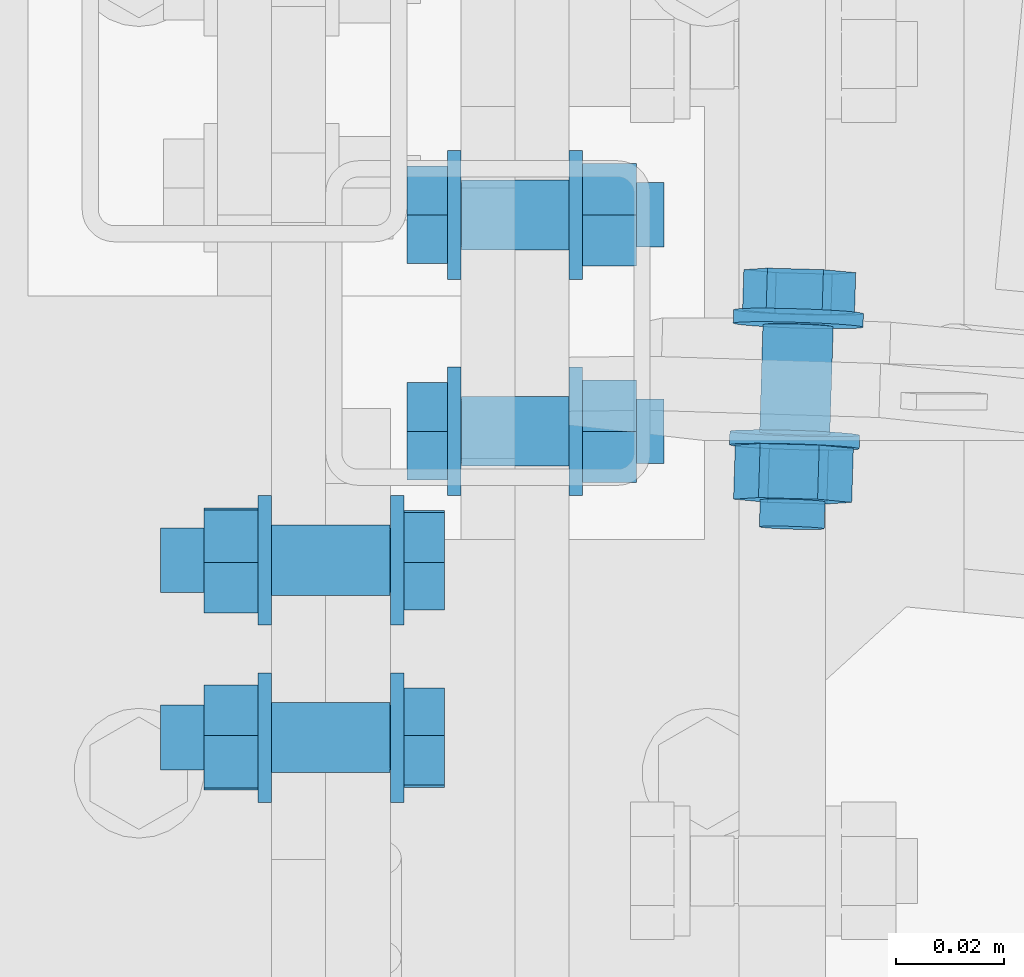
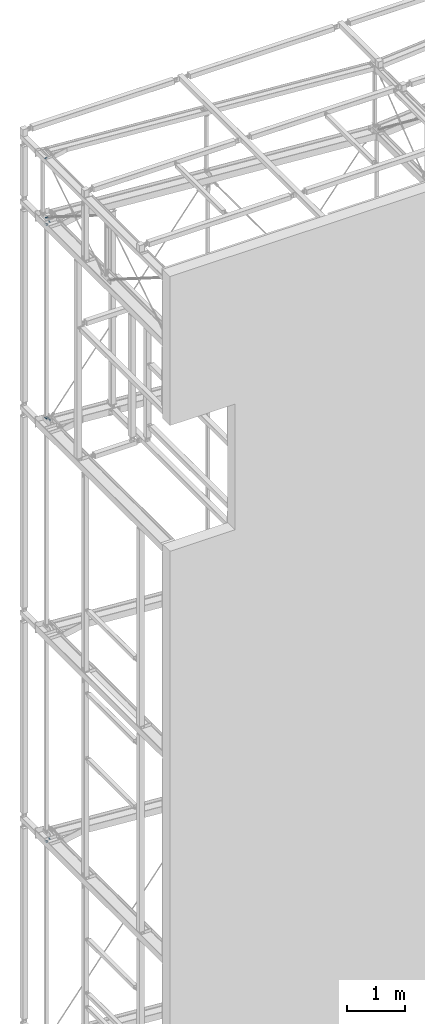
# One storey, part 248 of 271: 8 mechanical fasteners, 7 elements without a shape of their own.
"""IFC2X3 building model written with IfcOpenShell, lengths in millimetres."""

import ifcopenshell
import ifcopenshell.guid

model = None  # the IFC model being written
_history = None  # IfcOwnerHistory: only IFC2X3 demands one
_inside = {}  # id of a spatial element -> (the spatial element, [elements in it])
_under = {}  # id of a project, library or spatial element -> (it, [spatial elements below it])
_declared = {}  # id of a project -> (the project, [libraries it declares])
_typed = {}  # id of a type object -> (the type object, [elements of that type])
_made_of = {}  # id of a material, layer set ... -> (it, [elements and type objects made of it])


def new_model(schema):
    """Start an empty IFC model of exactly this schema.

    Asked for "IFC4X3", IfcOpenShell would pick the latest addendum, in which some entities
    have other attributes; the version numbers below select the first issue.
    IFC2X3 requires an IfcOwnerHistory on every rooted entity: one is made here for all.
    """
    global model, _history
    if schema == "IFC4X3":
        model = ifcopenshell.file(schema_version=(4, 3, 0, 0))
    else:
        model = ifcopenshell.file(schema=schema)
    _inside.clear()
    _under.clear()
    _declared.clear()
    _typed.clear()
    _made_of.clear()
    _history = None
    if model.schema == "IFC2X3":
        org = make("IfcOrganization", Name="unknown")
        user = make(
            "IfcPersonAndOrganization",
            ThePerson=make("IfcPerson", FamilyName="unknown"),
            TheOrganization=org,
        )
        app = make(
            "IfcApplication",
            ApplicationDeveloper=org,
            Version="unknown",
            ApplicationFullName="unknown",
            ApplicationIdentifier="unknown",
        )
        _history = make(
            "IfcOwnerHistory",
            OwningUser=user,
            OwningApplication=app,
            ChangeAction="ADDED",
            CreationDate=0,
        )
    return model


def make(cls, **values):
    """One entity of the class cls with the attributes given. An attribute that is None is left unset."""
    return model.create_entity(
        cls, **{name: value for name, value in values.items() if value is not None}
    )


def rooted(cls, **values):
    """An entity with a GlobalId (a new one), such as an element, a storey or a relation."""
    return make(cls, GlobalId=ifcopenshell.guid.new(), OwnerHistory=_history, **values)


def si_unit(unit_type, name, prefix=None):
    """IfcSIUnit, for example si_unit("LENGTHUNIT", "METRE", prefix="MILLI")."""
    return make("IfcSIUnit", UnitType=unit_type, Prefix=prefix, Name=name)


def assignment(units):
    """IfcUnitAssignment: the units of a project."""
    return None if units is None else make("IfcUnitAssignment", Units=units)


def point(xyz):
    """IfcCartesianPoint."""
    return None if xyz is None else make("IfcCartesianPoint", Coordinates=xyz)


def direction(xyz):
    """IfcDirection."""
    return None if xyz is None else make("IfcDirection", DirectionRatios=xyz)


def frame(location, z_axis=None, x_axis=None):
    """IfcAxis2Placement3D, a coordinate frame: its origin and axes. An axis left out is left unset."""
    return make(
        "IfcAxis2Placement3D",
        Location=point(location),
        Axis=direction(z_axis),
        RefDirection=direction(x_axis),
    )


def frame_2d(location, x_axis=None):
    """IfcAxis2Placement2D, a coordinate frame in the plane: its origin and x axis."""
    return make(
        "IfcAxis2Placement2D", Location=point(location), RefDirection=direction(x_axis)
    )


def origin_with_axes():
    """The frame at (0, 0, 0) with the z axis (0, 0, 1) and the x axis (1, 0, 0) written out."""
    return frame((0.0, 0.0, 0.0), z_axis=(0.0, 0.0, 1.0), x_axis=(1.0, 0.0, 0.0))


def origin_2d_with_axis():
    """The frame at (0, 0) in the plane with the x axis (1, 0) written out."""
    return frame_2d((0.0, 0.0), x_axis=(1.0, 0.0))


def place(relative_to, where):
    """IfcLocalPlacement: puts the frame where relative to a parent placement (None: the world)."""
    return make(
        "IfcLocalPlacement", PlacementRelTo=relative_to, RelativePlacement=where
    )


def context(
    kind, dimensions, precision=None, world=None, true_north=None, identifier=None
):
    """IfcGeometricRepresentationContext, for example the 3D "Model" context."""
    return make(
        "IfcGeometricRepresentationContext",
        ContextIdentifier=identifier,
        ContextType=kind,
        CoordinateSpaceDimension=dimensions,
        Precision=precision,
        WorldCoordinateSystem=world,
        TrueNorth=true_north,
    )


def subcontext(parent, identifier, kind, view, scale=None):
    """IfcGeometricRepresentationSubContext, for example "Body" below "Model"."""
    return make(
        "IfcGeometricRepresentationSubContext",
        ContextIdentifier=identifier,
        ContextType=kind,
        ParentContext=parent,
        TargetScale=scale,
        TargetView=view,
    )


def project(units=None, contexts=None):
    """IfcProject with its units and contexts."""
    return rooted(
        "IfcProject",
        Name="project",
        RepresentationContexts=contexts,
        UnitsInContext=assignment(units),
    )


def spatial(cls, under=None, at=None, **own):
    """A site, building, storey or space (cls), placed at a placement, below another one or the project."""
    s = rooted(cls, ObjectPlacement=at, **own)
    if under is not None:
        _under.setdefault(under.id(), (under, []))[1].append(s)
    return s


def polyline(points):
    """IfcPolyline through the points."""
    return make("IfcPolyline", Points=[point(p) for p in points])


def profile(cls, at=None, kind="AREA", **sizes):
    """A parametric profile (cls). Its sizes go by their IFC names, for example OverallWidth=200.0."""
    return make(cls, ProfileType=kind, Position=at, **sizes)


def circle(**sizes):
    """IfcCircleProfileDef."""
    return profile("IfcCircleProfileDef", **sizes)


def outline(outer, holes=None, kind="AREA"):
    """IfcArbitraryClosedProfileDef: a profile drawn as a closed curve; with holes, ...WithVoids."""
    if holes is None:
        return make("IfcArbitraryClosedProfileDef", ProfileType=kind, OuterCurve=outer)
    return make(
        "IfcArbitraryProfileDefWithVoids",
        ProfileType=kind,
        OuterCurve=outer,
        InnerCurves=holes,
    )


def extrude(swept, where, along, depth):
    """IfcExtrudedAreaSolid: the profile swept, set in the frame where, extruded along a direction by depth."""
    return make(
        "IfcExtrudedAreaSolid",
        SweptArea=swept,
        Position=where,
        ExtrudedDirection=direction(along),
        Depth=depth,
    )


def shape(context_of_items, identifier, shape_type, items):
    """IfcShapeRepresentation: the items that make up one representation, for example the "Body"."""
    return make(
        "IfcShapeRepresentation",
        ContextOfItems=context_of_items,
        RepresentationIdentifier=identifier,
        RepresentationType=shape_type,
        Items=items,
    )


def source(mapping_origin, context_of_items, identifier, shape_type, items):
    """IfcRepresentationMap: a shape defined once, which mapped items show again and again."""
    return make(
        "IfcRepresentationMap",
        MappingOrigin=mapping_origin,
        MappedRepresentation=shape(context_of_items, identifier, shape_type, items),
    )


def transform(
    local_origin,
    x_axis=None,
    y_axis=None,
    z_axis=None,
    scale=None,
    scale2=None,
    scale3=None,
    uniform=True,
):
    """IfcCartesianTransformationOperator3D, or its non-uniform kind. x_axis, y_axis, z_axis: its Axis1, 2, 3."""
    if uniform:
        return make(
            "IfcCartesianTransformationOperator3D",
            Axis1=direction(x_axis),
            Axis2=direction(y_axis),
            LocalOrigin=point(local_origin),
            Scale=scale,
            Axis3=direction(z_axis),
        )
    return make(
        "IfcCartesianTransformationOperator3DnonUniform",
        Axis1=direction(x_axis),
        Axis2=direction(y_axis),
        LocalOrigin=point(local_origin),
        Scale=scale,
        Axis3=direction(z_axis),
        Scale2=scale2,
        Scale3=scale3,
    )


def mapped(mapping_source, mapping_target):
    """IfcMappedItem: shows the shape of a source again, moved by a transform."""
    return make(
        "IfcMappedItem", MappingSource=mapping_source, MappingTarget=mapping_target
    )


def material(Name=None, Category=None):
    """IfcMaterial."""
    return make("IfcMaterial", Name=Name, Category=Category)


def made_of(thing, what):
    """Note that an element or type object is made of a material, layer set ...; save() writes the relation."""
    if what is not None:
        _made_of.setdefault(what.id(), (what, []))[1].append(thing)
    return thing


def type_object(cls, material=None, **own):
    """A type object (cls), such as IfcWallType, which elements share."""
    return made_of(rooted(cls, **own), material)


def element(
    cls,
    number,
    at=None,
    inside=None,
    cuts=None,
    type_object=None,
    material=None,
    context=None,
    identifier="Body",
    shape_type=None,
    held_by="IfcProductDefinitionShape",
    body=None,
    shapes=None,
    **own,
):
    """One element of the class cls, such as IfcWall. Its Tag is "e" and its number.

    at: its placement. inside: the storey or other place that contains it. cuts: it is an
    opening in that element (IfcRelVoidsElement). A single representation is given by context,
    identifier, shape_type and body (its items); several are given by shapes. held_by: the class
    of the entity that holds the representations. save() writes the other relations.
    """
    e = rooted(cls, Tag="e%d" % number, ObjectPlacement=at, **own)
    if body is not None:
        shapes = [shape(context, identifier, shape_type, body)]
    if shapes is not None:
        e.Representation = make(held_by, Representations=shapes)
    if inside is not None:
        _inside.setdefault(inside.id(), (inside, []))[1].append(e)
    if cuts is not None:
        rooted(
            "IfcRelVoidsElement", RelatingBuildingElement=cuts, RelatedOpeningElement=e
        )
    if type_object is not None:
        _typed.setdefault(type_object.id(), (type_object, []))[1].append(e)
    return made_of(e, material)


def aggregate(whole, parts):
    """IfcRelAggregates: a whole, such as a stair, and the parts it consists of."""
    return rooted("IfcRelAggregates", RelatingObject=whole, RelatedObjects=parts)


def save(model, path):
    """Write the relations noted so far, then the file.

    IfcRelAggregates (storeys below a building ...), IfcRelContainedInSpatialStructure (elements
    in a storey), IfcRelDefinesByType, IfcRelAssociatesMaterial and IfcRelDeclares: one each for
    every whole, place, type object, material and project.
    """
    for whole, parts in _under.values():
        aggregate(whole, parts)
    for where, things in _inside.values():
        rooted(
            "IfcRelContainedInSpatialStructure",
            RelatedElements=things,
            RelatingStructure=where,
        )
    for kind, things in _typed.values():
        rooted("IfcRelDefinesByType", RelatedObjects=things, RelatingType=kind)
    for what, things in _made_of.values():
        rooted("IfcRelAssociatesMaterial", RelatedObjects=things, RelatingMaterial=what)
    for by, libraries in _declared.values():
        rooted("IfcRelDeclares", RelatingContext=by, RelatedDefinitions=libraries)
    model.write(path)


model = new_model("IFC2X3")

# Units and contexts
model_context = context("Model", 3, precision=1e-05, world=origin_with_axes())
body_context = subcontext(model_context, "Body", "Model", "MODEL_VIEW")
ifc_project = project(units=[si_unit("LENGTHUNIT", "METRE", prefix="MILLI"), si_unit("AREAUNIT", "SQUARE_METRE"), si_unit("VOLUMEUNIT", "CUBIC_METRE"), si_unit("MASSUNIT", "GRAM", prefix="KILO"), si_unit("TIMEUNIT", "SECOND"), si_unit("PLANEANGLEUNIT", "RADIAN"), si_unit("SOLIDANGLEUNIT", "STERADIAN"), si_unit("THERMODYNAMICTEMPERATUREUNIT", "DEGREE_CELSIUS"), si_unit("LUMINOUSINTENSITYUNIT", "LUMEN")], contexts=[model_context])

# Site, building, storey
site_placement = place(None, origin_with_axes())
site = spatial("IfcSite", under=ifc_project, at=site_placement, Name="Undefined", CompositionType="ELEMENT")
building_placement = place(site_placement, origin_with_axes())
building = spatial("IfcBuilding", under=site, at=building_placement, Name="Undefined", CompositionType="ELEMENT")
storey_placement = place(building_placement, origin_with_axes())
storey = spatial("IfcBuildingStorey", under=building, at=storey_placement, Name="Undefined", CompositionType="ELEMENT", Elevation=0.0)

# Assembly, mechanical fastener
assembly_1_placement = place(storey_placement, origin_with_axes())
assembly_1 = element("IfcElementAssembly", 1, at=assembly_1_placement, inside=storey, AssemblyPlace="NOTDEFINED", PredefinedType="RIGID_FRAME")
ifc_material = material(Name="Undefined")
mechanical_fastener_type = type_object("IfcMechanicalFastenerType", Name="Bolt assembly")
shared_shape_1 = source(origin_with_axes(), body_context, "Body", "SweptSolid", [
    extrude(circle(Radius=6.5, at=origin_2d_with_axis()), frame((0.0, -5.1, 0.0), z_axis=(0.0, 1.0, 0.0), x_axis=(1.0, 0.0, 0.0)), (0.0, 0.0, 1.0), 10.1),
    extrude(circle(Radius=6.5, at=origin_2d_with_axis()), frame((0.0, -16.9, 0.0), z_axis=(0.0, 1.0, 0.0), x_axis=(1.0, 0.0, 0.0)), (0.0, 0.0, 1.0), 12.0),
    extrude(outline(polyline([(10.39230484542, 0.0), (5.19615242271, 9.00000000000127), (-5.19615242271, 9.00000000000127), (-10.39230484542, 0.0), (-5.19615242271, -9.00000000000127), (5.19615242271, -9.00000000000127), (10.39230484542, 0.0)])), frame((0.0, -27.0, 0.0), z_axis=(0.0, 1.0, 0.0), x_axis=(1.0, 0.0, 0.0)), (0.0, 0.0, 1.0), 7.5),
    extrude(circle(Radius=6.0, at=origin_2d_with_axis()), frame((0.0, -19.5, 0.0), z_axis=(0.0, 1.0, 0.0), x_axis=(1.0, 0.0, 0.0)), (0.0, 0.0, 1.0), 45.0),
    extrude(circle(Radius=12.0, at=origin_2d_with_axis()), frame((0.0, -19.5, 0.0), z_axis=(0.0, 1.0, 0.0), x_axis=(1.0, 0.0, 0.0)), (0.0, 0.0, 1.0), 2.5),
    extrude(circle(Radius=12.0, at=origin_2d_with_axis()), frame((0.0, 5.00000000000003, 0.0), z_axis=(0.0, 1.0, 0.0), x_axis=(1.0, 0.0, 0.0)), (0.0, 0.0, 1.0), 2.5),
    extrude(outline(polyline([(10.96965511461, 0.0), (5.484827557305, 9.50000000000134), (-5.484827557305, 9.50000000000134), (-10.96965511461, 0.0), (-5.484827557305, -9.50000000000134), (5.484827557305, -9.50000000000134), (10.96965511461, 0.0)])), frame((0.0, 7.50000000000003, 0.0), z_axis=(0.0, 1.0, 0.0), x_axis=(1.0, 0.0, 0.0)), (0.0, 0.0, 1.0), 10.0),
])
mechanical_fastener_1_placement = place(assembly_1_placement, frame((87.999999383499, 4248.3479574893, 19948.358337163), z_axis=(0.0, 0.533166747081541, -0.846010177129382), x_axis=(0.0, -0.846010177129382, -0.533166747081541)))
mechanical_fastener_1 = element("IfcMechanicalFastener", 2, at=mechanical_fastener_1_placement, type_object=mechanical_fastener_type, material=ifc_material, Name="Bolt assembly", NominalDiameter=12.0, NominalLength=45.0, context=body_context, shape_type="MappedRepresentation", body=[
    mapped(shared_shape_1, transform((0.0, 0.0, 0.0))),
])
aggregate(assembly_1, [mechanical_fastener_1])

assembly_2_placement = place(storey_placement, origin_with_axes())
assembly_2 = element("IfcElementAssembly", 3, at=assembly_2_placement, inside=storey, AssemblyPlace="NOTDEFINED", PredefinedType="RIGID_FRAME")
mechanical_fastener_2_placement = place(assembly_2_placement, frame((87.9999993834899, 4215.58126521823, 18720.991662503), z_axis=(0.0, -0.533166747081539, -0.846010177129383), x_axis=(0.0, -0.846010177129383, 0.533166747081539)))
mechanical_fastener_2 = element("IfcMechanicalFastener", 4, at=mechanical_fastener_2_placement, type_object=mechanical_fastener_type, material=ifc_material, Name="Bolt assembly", NominalDiameter=12.0, NominalLength=45.0, context=body_context, shape_type="MappedRepresentation", body=[
    mapped(shared_shape_1, transform((0.0, 0.0, 0.0))),
])
aggregate(assembly_2, [mechanical_fastener_2])

assembly_3_placement = place(storey_placement, origin_with_axes())
assembly_3 = element("IfcElementAssembly", 5, at=assembly_3_placement, inside=storey, AssemblyPlace="NOTDEFINED", PredefinedType="RIGID_FRAME")
shared_shape_2 = source(origin_with_axes(), body_context, "Body", "SweptSolid", [
    extrude(circle(Radius=6.5, at=origin_2d_with_axis()), frame((0.0, -5.1, 0.0), z_axis=(0.0, 1.0, 0.0), x_axis=(1.0, 0.0, 0.0)), (0.0, 0.0, 1.0), 10.1),
    extrude(circle(Radius=6.5, at=origin_2d_with_axis()), frame((0.0, -14.9000000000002, 0.0), z_axis=(0.0, 1.0, 0.0), x_axis=(1.0, 0.0, 0.0)), (0.0, 0.0, 1.0), 10.0),
    extrude(outline(polyline([(10.39230484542, 0.0), (5.19615242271, 9.00000000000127), (-5.19615242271, 9.00000000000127), (-10.39230484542, 0.0), (-5.19615242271, -9.00000000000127), (5.19615242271, -9.00000000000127), (10.39230484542, 0.0)])), frame((0.0, -25.0000000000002, 0.0), z_axis=(0.0, 1.0, 0.0), x_axis=(1.0, 0.0, 0.0)), (0.0, 0.0, 1.0), 7.5),
    extrude(circle(Radius=6.0, at=origin_2d_with_axis()), frame((0.0, -17.5000000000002, 0.0), z_axis=(0.0, 1.0, 0.0), x_axis=(1.0, 0.0, 0.0)), (0.0, 0.0, 1.0), 40.0),
    extrude(circle(Radius=12.0, at=origin_2d_with_axis()), frame((0.0, -17.5000000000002, 0.0), z_axis=(0.0, 1.0, 0.0), x_axis=(1.0, 0.0, 0.0)), (0.0, 0.0, 1.0), 2.5),
    extrude(circle(Radius=12.0, at=origin_2d_with_axis()), frame((0.0, 5.00000000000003, 0.0), z_axis=(0.0, 1.0, 0.0), x_axis=(1.0, 0.0, 0.0)), (0.0, 0.0, 1.0), 2.5),
    extrude(outline(polyline([(10.96965511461, 0.0), (5.484827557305, 9.50000000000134), (-5.484827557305, 9.50000000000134), (-10.96965511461, 0.0), (-5.484827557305, -9.50000000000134), (5.484827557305, -9.50000000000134), (10.96965511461, 0.0)])), frame((0.0, 7.50000000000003, 0.0), z_axis=(0.0, 1.0, 0.0), x_axis=(1.0, 0.0, 0.0)), (0.0, 0.0, 1.0), 10.0),
])
mechanical_fastener_3_placement = place(assembly_3_placement, frame((179.861128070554, 4276.82262382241, 18563.6899763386), z_axis=(-0.817327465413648, 2.23044480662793e-11, -0.576173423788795), x_axis=(0.57532667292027, -0.0541946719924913, -0.816126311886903)))
mechanical_fastener_3 = element("IfcMechanicalFastener", 6, at=mechanical_fastener_3_placement, type_object=mechanical_fastener_type, material=ifc_material, Name="Bolt assembly", NominalDiameter=12.0, NominalLength=40.0, context=body_context, shape_type="MappedRepresentation", body=[
    mapped(shared_shape_2, transform((0.0, 0.0, 0.0))),
])
aggregate(assembly_3, [mechanical_fastener_3])

assembly_4_placement = place(storey_placement, origin_with_axes())
assembly_4 = element("IfcElementAssembly", 7, at=assembly_4_placement, inside=storey, AssemblyPlace="NOTDEFINED", PredefinedType="RIGID_FRAME")
mechanical_fastener_4_placement = place(assembly_4_placement, frame((179.861128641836, 4276.82262382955, 14405.0100242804), z_axis=(0.817327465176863, 0.0, -0.576173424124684), x_axis=(0.575326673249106, -0.0541946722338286, 0.816126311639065)))
mechanical_fastener_4 = element("IfcMechanicalFastener", 8, at=mechanical_fastener_4_placement, type_object=mechanical_fastener_type, material=ifc_material, Name="Bolt assembly", NominalDiameter=12.0, NominalLength=40.0, context=body_context, shape_type="MappedRepresentation", body=[
    mapped(shared_shape_2, transform((0.0, 0.0, 0.0))),
])
aggregate(assembly_4, [mechanical_fastener_4])

assembly_5_placement = place(storey_placement, origin_with_axes())
assembly_5 = element("IfcElementAssembly", 9, at=assembly_5_placement, inside=storey, AssemblyPlace="NOTDEFINED", PredefinedType="RIGID_FRAME")
mechanical_fastener_5_placement = place(assembly_5_placement, frame((179.861128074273, 4276.82262382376, 5603.68997633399), z_axis=(-0.817327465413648, 2.23044480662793e-11, -0.576173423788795), x_axis=(0.57532667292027, -0.0541946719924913, -0.816126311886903)))
mechanical_fastener_5 = element("IfcMechanicalFastener", 10, at=mechanical_fastener_5_placement, type_object=mechanical_fastener_type, material=ifc_material, Name="Bolt assembly", NominalDiameter=12.0, NominalLength=40.0, context=body_context, shape_type="MappedRepresentation", body=[
    mapped(shared_shape_2, transform((0.0, 0.0, 0.0))),
])
aggregate(assembly_5, [mechanical_fastener_5])

# Assembly, mechanical fasteners
assembly_6_placement = place(storey_placement, origin_with_axes())
assembly_6 = element("IfcElementAssembly", 11, at=assembly_6_placement, inside=storey, AssemblyPlace="NOTDEFINED", PredefinedType="RIGID_FRAME")
mechanical_fastener_6_placement = place(assembly_6_placement, frame((132.999999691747, 4292.19355050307, 14452.649999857), z_axis=(0.0, 1.0, 0.0), x_axis=(0.0, 0.0, 1.0)))
mechanical_fastener_6 = element("IfcMechanicalFastener", 12, at=mechanical_fastener_6_placement, type_object=mechanical_fastener_type, material=ifc_material, Name="Bolt assembly", NominalDiameter=12.0, NominalLength=40.0, context=body_context, shape_type="MappedRepresentation", body=[
    mapped(shared_shape_2, transform((0.0, 0.0, -20.0))),
    mapped(shared_shape_2, transform((0.0, 0.0, 20.0))),
])
mechanical_fastener_7_placement = place(assembly_6_placement, frame((132.999999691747, 4292.19355050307, 18516.049999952), z_axis=(0.0, -1.0, 0.0), x_axis=(0.0, 0.0, -1.0)))
mechanical_fastener_7 = element("IfcMechanicalFastener", 13, at=mechanical_fastener_7_placement, type_object=mechanical_fastener_type, material=ifc_material, Name="Bolt assembly", NominalDiameter=12.0, NominalLength=40.0, context=body_context, shape_type="MappedRepresentation", body=[
    mapped(shared_shape_2, transform((0.0, 0.0, -20.0))),
    mapped(shared_shape_2, transform((0.0, 0.0, 20.0))),
])
aggregate(assembly_6, [mechanical_fastener_6, mechanical_fastener_7])

# Assembly, mechanical fastener
assembly_7_placement = place(storey_placement, origin_with_axes())
assembly_7 = element("IfcElementAssembly", 14, at=assembly_7_placement, inside=storey, AssemblyPlace="NOTDEFINED", PredefinedType="RIGID_FRAME")
mechanical_fastener_8_placement = place(assembly_7_placement, frame((132.999999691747, 4292.19355050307, 5556.04999995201), z_axis=(0.0, -1.0, 0.0), x_axis=(0.0, 0.0, -1.0)))
mechanical_fastener_8 = element("IfcMechanicalFastener", 15, at=mechanical_fastener_8_placement, type_object=mechanical_fastener_type, material=ifc_material, Name="Bolt assembly", NominalDiameter=12.0, NominalLength=40.0, context=body_context, shape_type="MappedRepresentation", body=[
    mapped(shared_shape_2, transform((0.0, 0.0, -20.0))),
    mapped(shared_shape_2, transform((0.0, 0.0, 20.0))),
])
aggregate(assembly_7, [mechanical_fastener_8])

save(model, "model.ifc")
